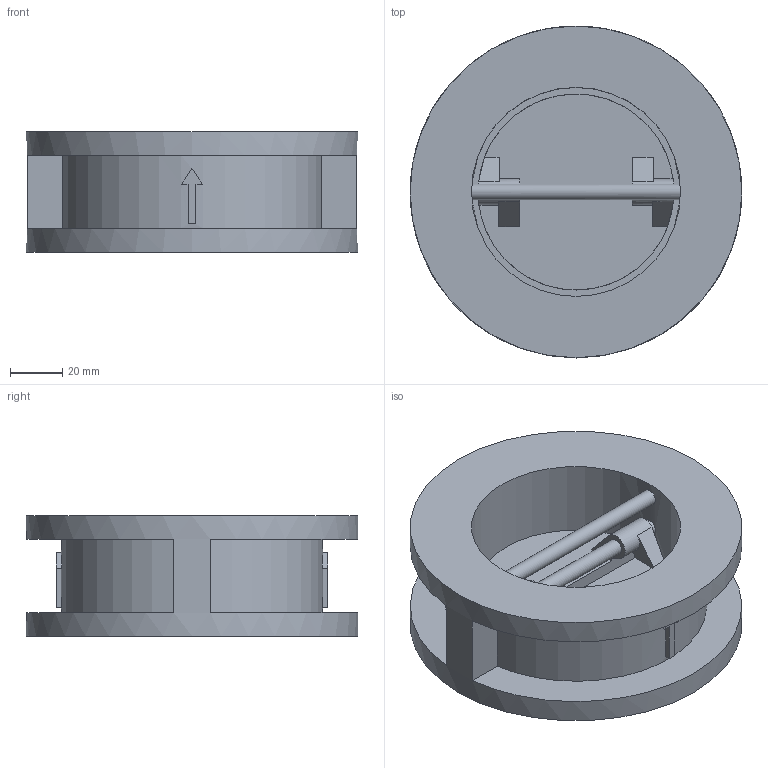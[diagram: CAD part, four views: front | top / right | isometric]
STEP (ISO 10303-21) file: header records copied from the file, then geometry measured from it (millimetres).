
FILE_DESCRIPTION(('STEP AP203'), '1');
FILE_NAME('孰囡囗 钺疣蝽 溻篚耱忸瘅囹 戾骠豚眦邂 010C DN65', '', ('UNSPECIFIED'), ('UNSPECIFIED'), 'ASCON STEP Converter 1.6', 'ASCON Math Kernel', '');
FILE_SCHEMA(('CONFIG_CONTROL_DESIGN'));
Length unit declared in the file: millimetre
Bounding box: 127 x 127 x 46 mm (x, y, z)
Volume: 289947.1 mm3; surface area: 69130.1 mm2
Topology: 1 solids, 1 shells, 73 faces, 201 edges, 132 vertices
Faces by surface type: plane 55, cylinder 16, cone 2
Full cylindrical faces by diameter (mm): 6 x4, 80 x1, 127 x1
Entity records: 3554 total; most frequent: CARTESIAN_POINT 1088, ORIENTED_EDGE 388, DIRECTION 364, EDGE_CURVE 194, VERTEX_POINT 132, LINE 124, VECTOR 124, AXIS2_PLACEMENT_3D 120
